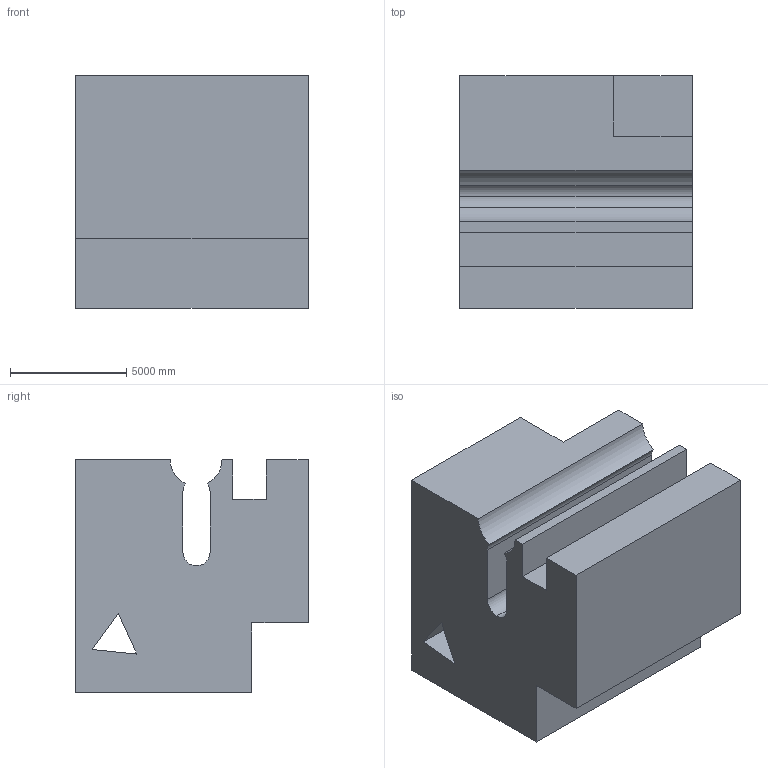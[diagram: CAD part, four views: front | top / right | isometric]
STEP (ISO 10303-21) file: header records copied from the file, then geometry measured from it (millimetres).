
FILE_DESCRIPTION (( 'STEP AP203' ), '1' );
FILE_NAME ('1589.STEP', '2022-08-18T15:59:50', ( 'user' ), ( '' ), 'SwSTEP 2.0', 'SolidWorks 2021', '' );
FILE_SCHEMA (( 'CONFIG_CONTROL_DESIGN' ));
Length unit declared in the file: centimetre
Products named in the file (1): 1589
Bounding box: 10000 x 10000 x 10000 mm (x, y, z)
Volume: 802167109909.7 mm3; surface area: 739105918.5 mm2
Topology: 1 solids, 1 shells, 27 faces, 75 edges, 50 vertices
Faces by surface type: plane 21, cylinder 6
Entity records: 942 total; most frequent: CARTESIAN_POINT 153, ORIENTED_EDGE 150, DIRECTION 143, EDGE_CURVE 75, VECTOR 63, LINE 63, VERTEX_POINT 50, AXIS2_PLACEMENT_3D 40
